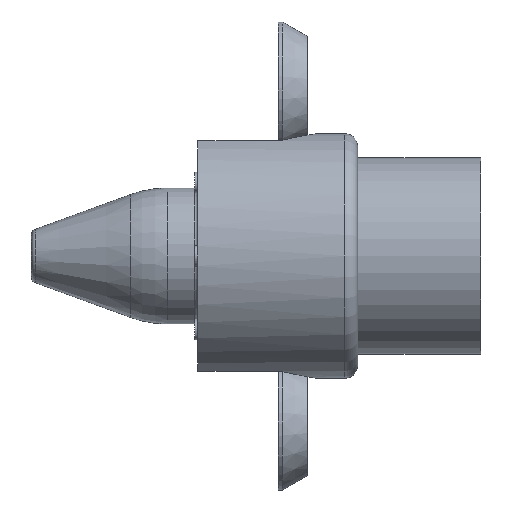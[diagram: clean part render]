
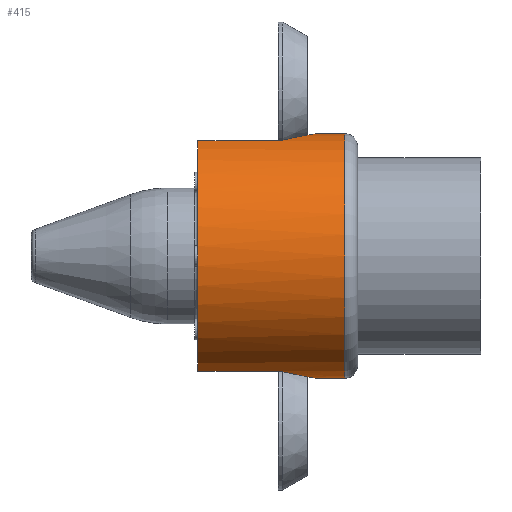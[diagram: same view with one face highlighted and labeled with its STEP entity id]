
A CAD part, left-side view. The second image highlights one B-rep face of the part: STEP entity #415.
In plain terms, the highlighted cylindrical face has radius 14.287 mm (diameter 28.575 mm), a partial arc.
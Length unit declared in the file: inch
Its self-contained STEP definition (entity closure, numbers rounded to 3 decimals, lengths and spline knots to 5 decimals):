
#4 = DIRECTION ( 'NONE',  ( 0., -1., 0. ) ) ;
#12 = AXIS2_PLACEMENT_3D ( 'NONE', #505, #1441, #1886 ) ;
#14 = LINE ( 'NONE', #1927, #1642 ) ;
#22 = CARTESIAN_POINT ( 'NONE',  ( -0.02689, 0.18989, -0.56188 ) ) ;
#29 = CARTESIAN_POINT ( 'NONE',  ( -0.02157, 0.18843, -0.56211 ) ) ;
#96 = CARTESIAN_POINT ( 'NONE',  ( -0.18899, 0.35886, 0.5298 ) ) ;
#117 = CARTESIAN_POINT ( 'NONE',  ( -0.18899, 0.735, -0.5298 ) ) ;
#121 = CARTESIAN_POINT ( 'NONE',  ( -0.13764, 0.28158, 0.54556 ) ) ;
#125 = EDGE_CURVE ( 'NONE', #1392, #1729, #14, .T. ) ;
#192 = FACE_OUTER_BOUND ( 'NONE', #1757, .T. ) ;
#225 = EDGE_CURVE ( 'NONE', #337, #777, #998, .T. ) ;
#242 = CARTESIAN_POINT ( 'NONE',  ( -0.18899, 0.35617, 0.5298 ) ) ;
#271 = CARTESIAN_POINT ( 'NONE',  ( -0.07856, 0.21921, 0.55705 ) ) ;
#287 = ORIENTED_EDGE ( 'NONE', *, *, #125, .F. ) ;
#295 = CARTESIAN_POINT ( 'NONE',  ( 0., 0.06, 0.5625 ) ) ;
#301 = CARTESIAN_POINT ( 'NONE',  ( 0., 0.735, -0.5625 ) ) ;
#306 = CARTESIAN_POINT ( 'NONE',  ( 0., 0.18597, -0.5625 ) ) ;
#312 = CARTESIAN_POINT ( 'NONE',  ( -0.16307, 0.31585, -0.53851 ) ) ;
#333 = CARTESIAN_POINT ( 'NONE',  ( -0.18674, 0.35136, -0.5306 ) ) ;
#337 = VERTEX_POINT ( 'NONE', #1680 ) ;
#367 = CARTESIAN_POINT ( 'NONE',  ( -0.18899, 0.35617, -0.5298 ) ) ;
#415 = ADVANCED_FACE ( 'NONE', ( #192 ), #518, .T. ) ;
#464 = CARTESIAN_POINT ( 'NONE',  ( -0.04222, 0.19536, -0.56101 ) ) ;
#505 = CARTESIAN_POINT ( 'NONE',  ( 0., 0.06, 0. ) ) ;
#508 = CIRCLE ( 'NONE', #12, 0.5625 ) ;
#518 = CYLINDRICAL_SURFACE ( 'NONE', #1429, 0.5625 ) ;
#549 = DIRECTION ( 'NONE',  ( 0., -1., 0. ) ) ;
#553 = CARTESIAN_POINT ( 'NONE',  ( -0.18899, 0.63295, -0.5298 ) ) ;
#569 = CARTESIAN_POINT ( 'NONE',  ( -0.18899, 0.735, 0.5298 ) ) ;
#571 = CARTESIAN_POINT ( 'NONE',  ( -0.04238, 0.19543, 0.561 ) ) ;
#592 = VERTEX_POINT ( 'NONE', #1428 ) ;
#605 = CARTESIAN_POINT ( 'NONE',  ( -0.07847, 0.21914, -0.55706 ) ) ;
#611 = VECTOR ( 'NONE', #4, 39.37008 ) ;
#623 = EDGE_CURVE ( 'NONE', #1083, #1404, #1924, .T. ) ;
#637 = ORIENTED_EDGE ( 'NONE', *, *, #1653, .F. ) ;
#639 = DIRECTION ( 'NONE',  ( 0., 1., 0. ) ) ;
#646 = VECTOR ( 'NONE', #1027, 39.37008 ) ;
#653 = CARTESIAN_POINT ( 'NONE',  ( 0., 0.735, 0. ) ) ;
#661 = CIRCLE ( 'NONE', #1543, 0.5625 ) ;
#662 = CARTESIAN_POINT ( 'NONE',  ( -0.18899, 0.35886, -0.5298 ) ) ;
#682 = CARTESIAN_POINT ( 'NONE',  ( -0.18899, 0.35886, 0.5298 ) ) ;
#738 = B_SPLINE_CURVE_WITH_KNOTS ( 'NONE', 3,
 ( #306, #1057, #1358, #29, #22, #464, #753, #1504, #605, #1652, #1215, #1802, #896, #312, #1820, #1367 ),
 .UNSPECIFIED., .F., .F.,
 ( 4, 2, 2, 2, 2, 2, 2, 4 ),
 ( 0.0067, 0.00711, 0.00752, 0.00835, 0.00917, 0.00999, 0.01163, 0.01328 ),
 .UNSPECIFIED. ) ;
#739 = CARTESIAN_POINT ( 'NONE',  ( 0., 0.18597, -0.5625 ) ) ;
#753 = CARTESIAN_POINT ( 'NONE',  ( -0.05189, 0.20051, -0.56018 ) ) ;
#777 = VERTEX_POINT ( 'NONE', #295 ) ;
#793 = ORIENTED_EDGE ( 'NONE', *, *, #1694, .T. ) ;
#807 = ORIENTED_EDGE ( 'NONE', *, *, #623, .F. ) ;
#836 = CARTESIAN_POINT ( 'NONE',  ( -0.18674, 0.35136, 0.5306 ) ) ;
#854 = ORIENTED_EDGE ( 'NONE', *, *, #1530, .F. ) ;
#896 = CARTESIAN_POINT ( 'NONE',  ( -0.13759, 0.28152, -0.54557 ) ) ;
#979 = VERTEX_POINT ( 'NONE', #1570 ) ;
#997 = CARTESIAN_POINT ( 'NONE',  ( -0.17513, 0.33348, 0.53468 ) ) ;
#998 = LINE ( 'NONE', #1042, #611 ) ;
#1007 = CARTESIAN_POINT ( 'NONE',  ( -0.16309, 0.31587, 0.5385 ) ) ;
#1010 = B_SPLINE_CURVE_WITH_KNOTS ( 'NONE', 3,
 ( #836, #1605, #242, #96 ),
 .UNSPECIFIED., .F., .F.,
 ( 4, 4 ),
 ( 0., 0.0002 ),
 .UNSPECIFIED. ) ;
#1012 = CARTESIAN_POINT ( 'NONE',  ( 0., 0.18597, 0.5625 ) ) ;
#1027 = DIRECTION ( 'NONE',  ( 0., -1., 0. ) ) ;
#1030 = ORIENTED_EDGE ( 'NONE', *, *, #1918, .F. ) ;
#1042 = CARTESIAN_POINT ( 'NONE',  ( 0., 0.735, 0.5625 ) ) ;
#1055 = B_SPLINE_CURVE_WITH_KNOTS ( 'NONE', 3,
 ( #1329, #997, #1007, #121, #1630, #1165, #1322, #271, #1461, #1183, #571, #1616, #1334, #1601, #1624, #1012 ),
 .UNSPECIFIED., .F., .F.,
 ( 4, 2, 2, 2, 2, 2, 2, 4 ),
 ( 0.00011, 0.00176, 0.0034, 0.00423, 0.00505, 0.00588, 0.00629, 0.0067 ),
 .UNSPECIFIED. ) ;
#1057 = CARTESIAN_POINT ( 'NONE',  ( -0.00542, 0.18597, -0.5625 ) ) ;
#1083 = VERTEX_POINT ( 'NONE', #1094 ) ;
#1094 = CARTESIAN_POINT ( 'NONE',  ( -0.18899, 0.35886, -0.5298 ) ) ;
#1120 = CARTESIAN_POINT ( 'NONE',  ( 0., 0.735, 0. ) ) ;
#1165 = CARTESIAN_POINT ( 'NONE',  ( -0.10228, 0.24119, 0.55317 ) ) ;
#1183 = CARTESIAN_POINT ( 'NONE',  ( -0.05215, 0.20066, 0.56015 ) ) ;
#1192 = EDGE_CURVE ( 'NONE', #1083, #1593, #1200, .T. ) ;
#1200 = B_SPLINE_CURVE_WITH_KNOTS ( 'NONE', 3,
 ( #662, #367, #1418, #1568 ),
 .UNSPECIFIED., .F., .F.,
 ( 4, 4 ),
 ( 0., 0.0002 ),
 .UNSPECIFIED. ) ;
#1215 = CARTESIAN_POINT ( 'NONE',  ( -0.10216, 0.24106, -0.5532 ) ) ;
#1293 = EDGE_CURVE ( 'NONE', #592, #1729, #1010, .T. ) ;
#1322 = CARTESIAN_POINT ( 'NONE',  ( -0.09461, 0.23352, 0.55455 ) ) ;
#1329 = CARTESIAN_POINT ( 'NONE',  ( -0.18674, 0.35136, 0.5306 ) ) ;
#1334 = CARTESIAN_POINT ( 'NONE',  ( -0.02175, 0.18847, 0.56211 ) ) ;
#1358 = CARTESIAN_POINT ( 'NONE',  ( -0.01082, 0.18647, -0.56242 ) ) ;
#1367 = CARTESIAN_POINT ( 'NONE',  ( -0.18674, 0.35136, -0.5306 ) ) ;
#1392 = VERTEX_POINT ( 'NONE', #569 ) ;
#1404 = VERTEX_POINT ( 'NONE', #117 ) ;
#1415 = EDGE_CURVE ( 'NONE', #1482, #979, #1720, .T. ) ;
#1418 = CARTESIAN_POINT ( 'NONE',  ( -0.18818, 0.35357, -0.53009 ) ) ;
#1428 = CARTESIAN_POINT ( 'NONE',  ( -0.18674, 0.35136, 0.5306 ) ) ;
#1429 = AXIS2_PLACEMENT_3D ( 'NONE', #1120, #1539, #1693 ) ;
#1441 = DIRECTION ( 'NONE',  ( 0., 1., 0. ) ) ;
#1448 = ORIENTED_EDGE ( 'NONE', *, *, #1192, .T. ) ;
#1461 = CARTESIAN_POINT ( 'NONE',  ( -0.07016, 0.21252, 0.55818 ) ) ;
#1475 = ORIENTED_EDGE ( 'NONE', *, *, #1293, .T. ) ;
#1482 = VERTEX_POINT ( 'NONE', #739 ) ;
#1504 = CARTESIAN_POINT ( 'NONE',  ( -0.07005, 0.21243, -0.5582 ) ) ;
#1530 = EDGE_CURVE ( 'NONE', #1482, #1593, #738, .T. ) ;
#1539 = DIRECTION ( 'NONE',  ( 0., -1., 0. ) ) ;
#1543 = AXIS2_PLACEMENT_3D ( 'NONE', #653, #639, #1548 ) ;
#1548 = DIRECTION ( 'NONE',  ( 0., 0., 1. ) ) ;
#1568 = CARTESIAN_POINT ( 'NONE',  ( -0.18674, 0.35136, -0.5306 ) ) ;
#1570 = CARTESIAN_POINT ( 'NONE',  ( 0., 0.06, -0.5625 ) ) ;
#1578 = DIRECTION ( 'NONE',  ( 0., 1., 0. ) ) ;
#1593 = VERTEX_POINT ( 'NONE', #333 ) ;
#1601 = CARTESIAN_POINT ( 'NONE',  ( -0.01094, 0.18648, 0.56242 ) ) ;
#1605 = CARTESIAN_POINT ( 'NONE',  ( -0.18817, 0.35357, 0.53009 ) ) ;
#1614 = ORIENTED_EDGE ( 'NONE', *, *, #1415, .T. ) ;
#1616 = CARTESIAN_POINT ( 'NONE',  ( -0.027, 0.18992, 0.56188 ) ) ;
#1624 = CARTESIAN_POINT ( 'NONE',  ( -0.00543, 0.18597, 0.5625 ) ) ;
#1630 = CARTESIAN_POINT ( 'NONE',  ( -0.12427, 0.26488, 0.54881 ) ) ;
#1642 = VECTOR ( 'NONE', #549, 39.37008 ) ;
#1652 = CARTESIAN_POINT ( 'NONE',  ( -0.09453, 0.23345, -0.55456 ) ) ;
#1653 = EDGE_CURVE ( 'NONE', #1404, #1392, #661, .T. ) ;
#1680 = CARTESIAN_POINT ( 'NONE',  ( 0., 0.18597, 0.5625 ) ) ;
#1693 = DIRECTION ( 'NONE',  ( 0., 0., -1. ) ) ;
#1694 = EDGE_CURVE ( 'NONE', #979, #777, #508, .T. ) ;
#1720 = LINE ( 'NONE', #301, #646 ) ;
#1724 = VECTOR ( 'NONE', #1578, 39.37008 ) ;
#1729 = VERTEX_POINT ( 'NONE', #682 ) ;
#1757 = EDGE_LOOP ( 'NONE', ( #1769, #1030, #1475, #287, #637, #807, #1448, #854, #1614, #793 ) ) ;
#1769 = ORIENTED_EDGE ( 'NONE', *, *, #225, .F. ) ;
#1802 = CARTESIAN_POINT ( 'NONE',  ( -0.1242, 0.26479, -0.54882 ) ) ;
#1820 = CARTESIAN_POINT ( 'NONE',  ( -0.17512, 0.33347, -0.53469 ) ) ;
#1886 = DIRECTION ( 'NONE',  ( 0., 0., 1. ) ) ;
#1918 = EDGE_CURVE ( 'NONE', #592, #337, #1055, .T. ) ;
#1924 = LINE ( 'NONE', #553, #1724 ) ;
#1927 = CARTESIAN_POINT ( 'NONE',  ( -0.18899, 0.63295, 0.5298 ) ) ;
